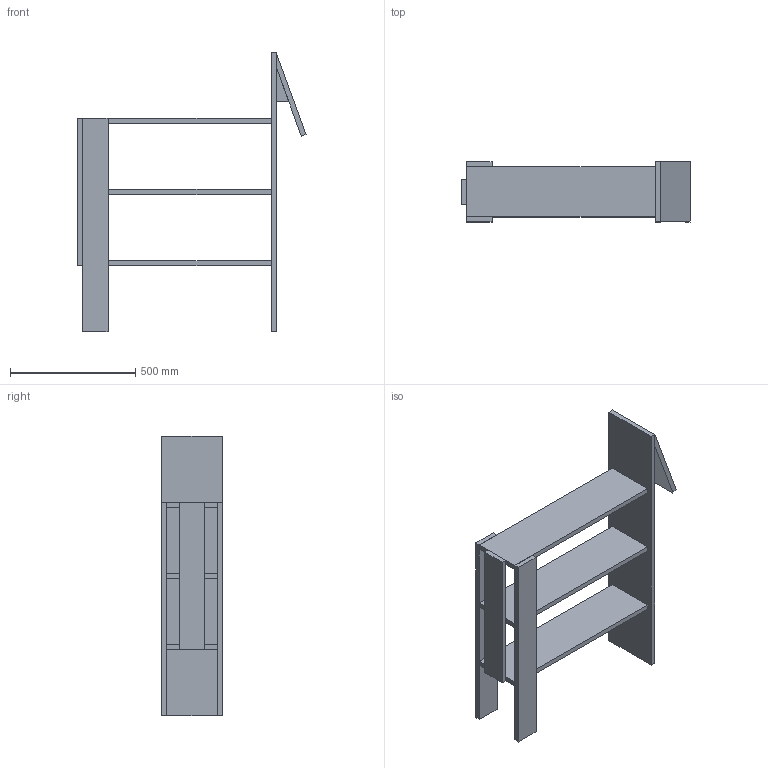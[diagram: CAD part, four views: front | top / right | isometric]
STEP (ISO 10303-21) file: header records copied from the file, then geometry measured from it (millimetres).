
FILE_DESCRIPTION(/* description */ (''),/* implementation_level */ '2;1');
FILE_NAME(/* name */ 'Horse bookcase_3D',/* time_stamp */ '2024-08-23T14:41:53+02:00',/* author */ (''),/* organization */ (''),/* preprocessor_version */ 'ST-DEVELOPER v16.5',/* originating_system */ 'Rhino 7.37',/* authorisation */ '');
FILE_SCHEMA (('CONFIG_CONTROL_DESIGN'));
Length unit declared in the file: millimetre
Products named in the file (1): Document
Bounding box: 909.71 x 240 x 1116 mm (x, y, z)
Volume: 20558042.3 mm3; surface area: 2367100.3 mm2
Topology: 9 solids, 9 shells, 77 faces, 153 edges, 102 vertices
Faces by surface type: plane 61, cylinder 16
Entity records: 1835 total; most frequent: CARTESIAN_POINT 583, ORIENTED_EDGE 306, EDGE_CURVE 153, B_SPLINE_CURVE_WITH_KNOTS 105, VERTEX_POINT 102, EDGE_LOOP 85, DIRECTION 81, AXIS2_PLACEMENT_3D 79
